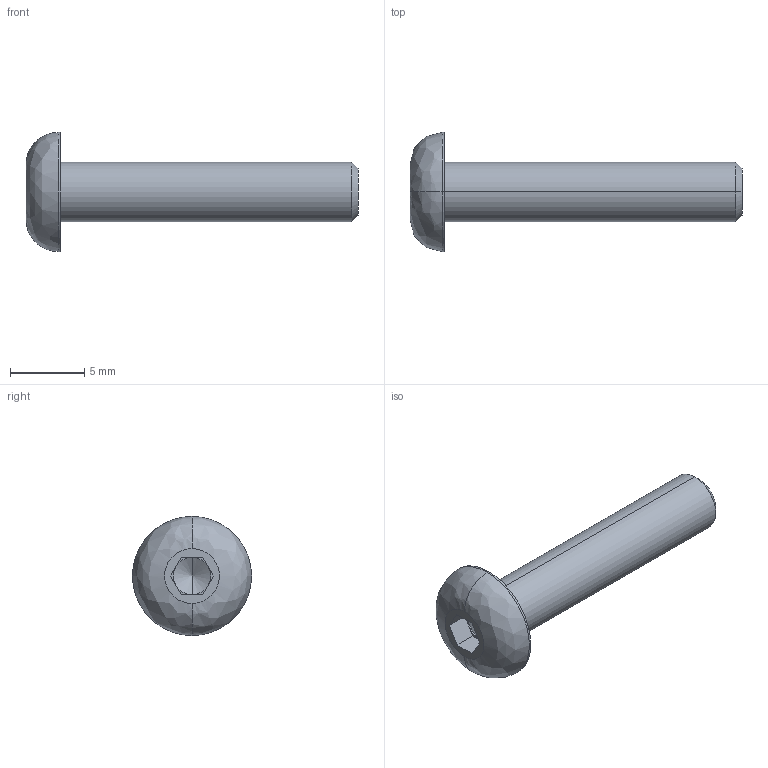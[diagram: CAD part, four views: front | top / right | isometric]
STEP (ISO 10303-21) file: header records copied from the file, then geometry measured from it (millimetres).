
FILE_DESCRIPTION (( 'STEP AP214' ), '1' );
FILE_NAME ('ISO7380_4x20.STEP', '2016-05-18T14:42:29', ( '' ), ( '' ), 'SwSTEP 2.0', 'SolidWorks 2014', '' );
FILE_SCHEMA (( 'AUTOMOTIVE_DESIGN' ));
Length unit declared in the file: millimetre
Products named in the file (1): ISO7380_4x20
Bounding box: 22.3 x 8 x 8 mm (x, y, z)
Volume: 334.1 mm3; surface area: 395.2 mm2
Topology: 1 solids, 1 shells, 27 faces, 59 edges, 34 vertices
Faces by surface type: plane 15, cylinder 6, cone 4, bspline 2
Entity records: 771 total; most frequent: CARTESIAN_POINT 158, DIRECTION 126, ORIENTED_EDGE 114, EDGE_CURVE 57, AXIS2_PLACEMENT_3D 46, VECTOR 34, VERTEX_POINT 34, LINE 34
